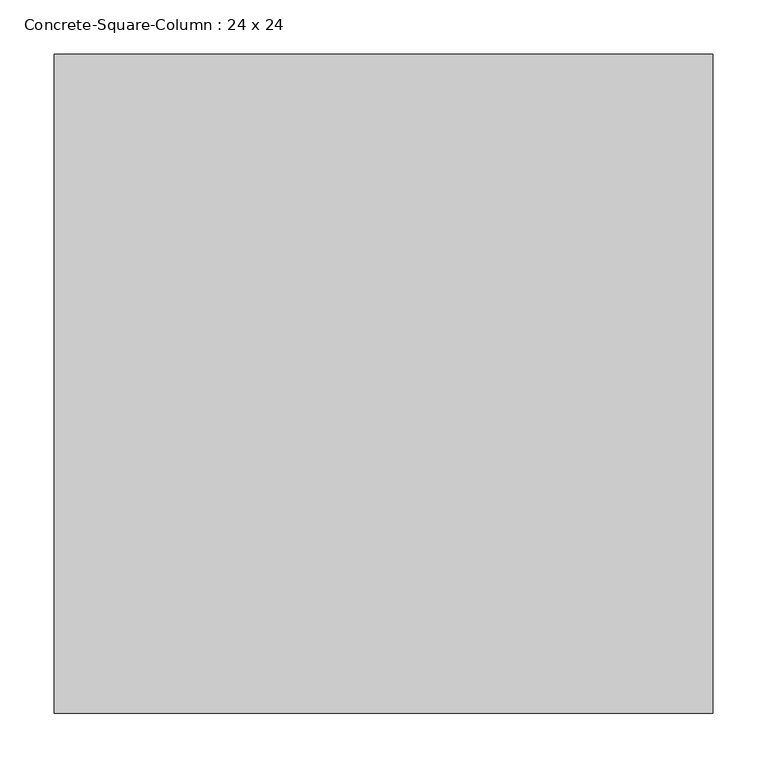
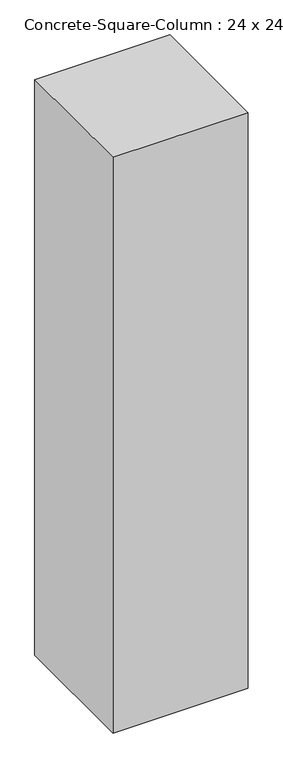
"""IFC4 building model written with IfcOpenShell, lengths in millimetres: column geometry, Concrete-Square-Column : 24 x 24."""

from ifc_helpers import new_model, si_unit, origin, origin_with_axes, place, context, project, spatial, polyline, outline, extrude, source, transform, mapped, element, save


def concrete_square_column_24_x_24_a4109c9c(model_context):
    return source(origin(), model_context, "Body", "SweptSolid", [
        extrude(outline(polyline([(304.8, 304.8), (304.8, -304.8), (-304.8, -304.8), (-304.8, 304.8), (304.8, 304.8)])), origin_with_axes(), (0.0, 0.0, 1.0), 2743.2),
    ])


if __name__ == "__main__":
    model = new_model("IFC4")
    model_context = context("Model", 3, world=origin())
    ifc_project = project(units=[si_unit("LENGTHUNIT", "METRE", prefix="MILLI")], contexts=[model_context])
    site = spatial("IfcSite", under=ifc_project)
    building = spatial("IfcBuilding", under=site)
    placement = place(None, origin())
    concrete_square_column_24_x_24_shape = concrete_square_column_24_x_24_a4109c9c(model_context)
    element("IfcColumn", 1, ObjectType="Concrete-Square-Column : 24 x 24", at=placement, inside=building, context=model_context, shape_type="MappedRepresentation", body=[
        mapped(concrete_square_column_24_x_24_shape, transform((0.0, 0.0, 0.0), x_axis=(1.0, 0.0, 0.0), y_axis=(0.0, 1.0, 0.0), z_axis=(0.0, 0.0, 1.0))),
    ])
    save(model, "model.ifc")
